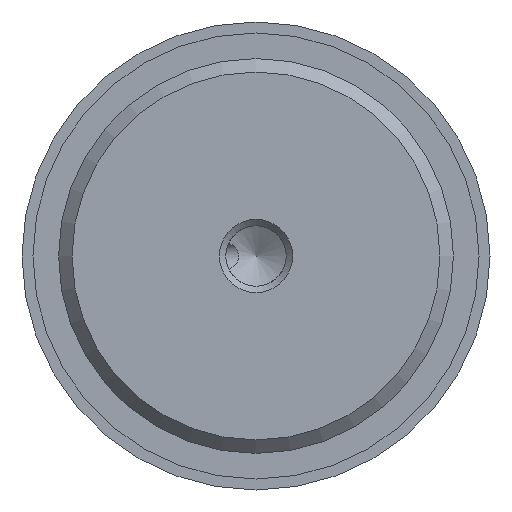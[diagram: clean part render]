
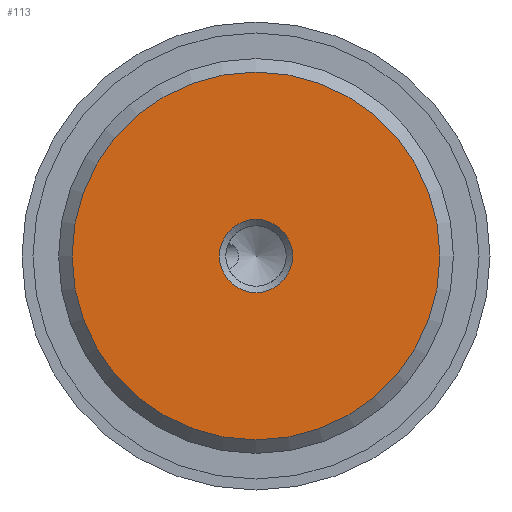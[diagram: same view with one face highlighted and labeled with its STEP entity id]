
A CAD part, front view. The second image highlights one B-rep face of the part: STEP entity #113.
In plain terms, the highlighted planar face has unit normal (0, -1, 0).
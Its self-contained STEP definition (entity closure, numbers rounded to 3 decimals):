
#113 = ADVANCED_FACE( '', ( #220, #221 ), #222, .F. );
#220 = FACE_BOUND( '', #363, .T. );
#221 = FACE_OUTER_BOUND( '', #364, .T. );
#222 = PLANE( '', #365 );
#363 = EDGE_LOOP( '', ( #727 ) );
#364 = EDGE_LOOP( '', ( #728 ) );
#365 = AXIS2_PLACEMENT_3D( '', #729, #730, #731 );
#727 = ORIENTED_EDGE( '', *, *, #1027, .F. );
#728 = ORIENTED_EDGE( '', *, *, #1029, .T. );
#729 = CARTESIAN_POINT( '', ( 12.58, 0., 0. ) );
#730 = DIRECTION( '', ( 0., 1., 0. ) );
#731 = DIRECTION( '', ( 0., 0., 1. ) );
#1027 = EDGE_CURVE( '', #1253, #1253, #1254, .T. );
#1029 = EDGE_CURVE( '', #1257, #1257, #1258, .T. );
#1253 = VERTEX_POINT( '', #1698 );
#1254 = CIRCLE( '', #1699, 2.5 );
#1257 = VERTEX_POINT( '', #1702 );
#1258 = CIRCLE( '', #1703, 12.58 );
#1698 = CARTESIAN_POINT( '', ( 2.5, 0., 0. ) );
#1699 = AXIS2_PLACEMENT_3D( '', #1881, #1882, #1883 );
#1702 = CARTESIAN_POINT( '', ( 0., 0., -12.58 ) );
#1703 = AXIS2_PLACEMENT_3D( '', #1887, #1888, #1889 );
#1881 = CARTESIAN_POINT( '', ( 0., 0., 0. ) );
#1882 = DIRECTION( '', ( 0., -1., 0. ) );
#1883 = DIRECTION( '', ( 1., 0., 0. ) );
#1887 = CARTESIAN_POINT( '', ( 0., 0., 0. ) );
#1888 = DIRECTION( '', ( 0., -1., 0. ) );
#1889 = DIRECTION( '', ( 0., 0., -1. ) );
